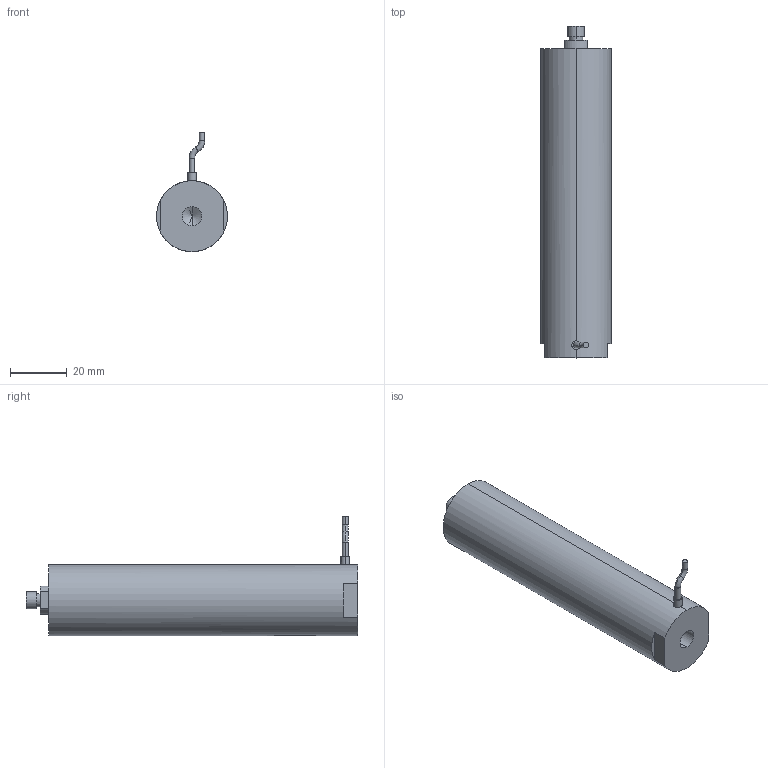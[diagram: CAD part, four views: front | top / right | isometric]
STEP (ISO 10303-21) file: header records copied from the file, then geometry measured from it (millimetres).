
FILE_DESCRIPTION (( 'STEP AP203' ), '1' );
FILE_NAME ('ﾍ篦ﾝﾎﾆﾊｽ100VS25.STEP', '2021-07-08T08:02:54', ( 'ﾎ｢ﾈ橆ﾃｻｧ' ), ( 'ﾎ｢ﾈ晥ｫﾋｾ' ), 'SwSTEP 2.0', 'SolidWorks 2016', '' );
FILE_SCHEMA (( 'CONFIG_CONTROL_DESIGN' ));
Products named in the file (1): 俋蹟恇宒100VS25
Bounding box: 25 x 117 x 42.06 mm (x, y, z)
Volume: 53377.4 mm3; surface area: 10104.9 mm2
Topology: 1 solids, 1 shells, 945 faces, 2561 edges, 1699 vertices
Faces by surface type: bspline 517, plane 313, cylinder 109, torus 4, cone 2
Entity records: 45185 total; most frequent: CARTESIAN_POINT 25980, ORIENTED_EDGE 5110, EDGE_CURVE 2555, DIRECTION 1983, B_SPLINE_CURVE_WITH_KNOTS 1710, VERTEX_POINT 1697, EDGE_LOOP 1030, ADVANCED_FACE 945
